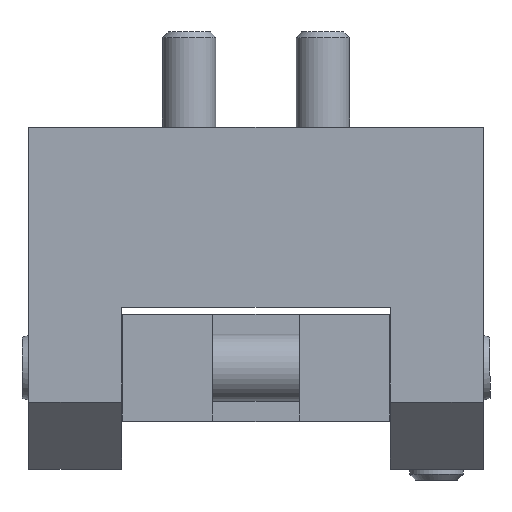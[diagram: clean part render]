
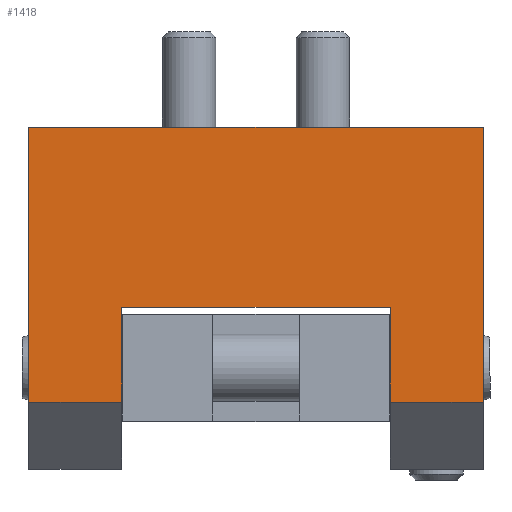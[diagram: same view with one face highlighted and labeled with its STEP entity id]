
A CAD part, top view. The second image highlights one B-rep face of the part: STEP entity #1418.
In plain terms, the highlighted planar face has unit normal (0, 0, 1).
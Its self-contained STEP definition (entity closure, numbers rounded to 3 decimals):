
#145=LINE('',#2202,#243);
#148=LINE('',#2284,#246);
#153=LINE('',#2298,#251);
#164=LINE('',#2328,#262);
#169=LINE('',#2353,#267);
#170=LINE('',#2356,#268);
#171=LINE('',#2357,#269);
#172=LINE('',#2358,#270);
#243=VECTOR('',#1742,20.576);
#246=VECTOR('',#1753,34.);
#251=VECTOR('',#1764,20.576);
#262=VECTOR('',#1789,20.1);
#267=VECTOR('',#1822,6.95);
#268=VECTOR('',#1825,6.95);
#269=VECTOR('',#1826,7.1);
#270=VECTOR('',#1827,7.1);
#341=PLANE('',#1546);
#412=FACE_OUTER_BOUND('',#524,.T.);
#524=EDGE_LOOP('',(#1112,#1113,#1114,#1115,#1116,#1117,#1118,#1119));
#679=VERTEX_POINT('',#2199);
#680=VERTEX_POINT('',#2201);
#687=VERTEX_POINT('',#2283);
#693=VERTEX_POINT('',#2297);
#703=VERTEX_POINT('',#2322);
#705=VERTEX_POINT('',#2326);
#711=VERTEX_POINT('',#2351);
#712=VERTEX_POINT('',#2355);
#821=EDGE_CURVE('',#680,#679,#145,.T.);
#829=EDGE_CURVE('',#687,#680,#148,.T.);
#836=EDGE_CURVE('',#693,#687,#153,.T.);
#851=EDGE_CURVE('',#703,#705,#164,.T.);
#860=EDGE_CURVE('',#711,#679,#169,.T.);
#861=EDGE_CURVE('',#693,#712,#170,.T.);
#862=EDGE_CURVE('',#711,#703,#171,.T.);
#863=EDGE_CURVE('',#705,#712,#172,.T.);
#1112=ORIENTED_EDGE('',*,*,#861,.F.);
#1113=ORIENTED_EDGE('',*,*,#836,.T.);
#1114=ORIENTED_EDGE('',*,*,#829,.T.);
#1115=ORIENTED_EDGE('',*,*,#821,.T.);
#1116=ORIENTED_EDGE('',*,*,#860,.F.);
#1117=ORIENTED_EDGE('',*,*,#862,.T.);
#1118=ORIENTED_EDGE('',*,*,#851,.T.);
#1119=ORIENTED_EDGE('',*,*,#863,.T.);
#1418=ADVANCED_FACE('',(#412),#341,.T.);
#1546=AXIS2_PLACEMENT_3D('',#2354,#1823,#1824);
#1742=DIRECTION('',(0.,-1.,0.));
#1753=DIRECTION('',(-1.,0.,0.));
#1764=DIRECTION('',(0.,1.,0.));
#1789=DIRECTION('',(1.,0.,0.));
#1822=DIRECTION('',(-1.,0.,0.));
#1823=DIRECTION('center_axis',(0.,0.,
1.));
#1824=DIRECTION('ref_axis',(-1.,0.,0.));
#1825=DIRECTION('',(-1.,0.,0.));
#1826=DIRECTION('',(0.,1.,0.));
#1827=DIRECTION('',(0.,-1.,0.));
#2199=CARTESIAN_POINT('',(-57.,-139.596,38.2));
#2201=CARTESIAN_POINT('',(-57.,-119.02,38.2));
#2202=CARTESIAN_POINT('',(-57.,-144.596,38.2));
#2283=CARTESIAN_POINT('',(-23.,-119.02,38.2));
#2284=CARTESIAN_POINT('',(-40.,-119.02,38.2));
#2297=CARTESIAN_POINT('',(-23.,-139.596,38.2));
#2298=CARTESIAN_POINT('',(-23.,-144.596,38.2));
#2322=CARTESIAN_POINT('',(-50.05,-132.496,38.2));
#2326=CARTESIAN_POINT('',(-29.95,-132.496,38.2));
#2328=CARTESIAN_POINT('',(-40.,-132.496,38.2));
#2351=CARTESIAN_POINT('',(-50.05,-139.596,38.2));
#2353=CARTESIAN_POINT('',(-40.,-139.596,38.2));
#2354=CARTESIAN_POINT('Origin',(-40.,-119.02,38.2));
#2355=CARTESIAN_POINT('',(-29.95,-139.596,38.2));
#2356=CARTESIAN_POINT('',(-40.,-139.596,38.2));
#2357=CARTESIAN_POINT('',(-50.05,-126.784,38.2));
#2358=CARTESIAN_POINT('',(-29.95,-126.784,38.2));
